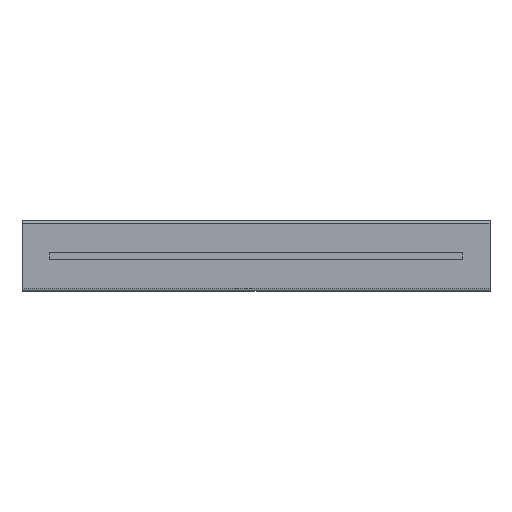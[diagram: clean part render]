
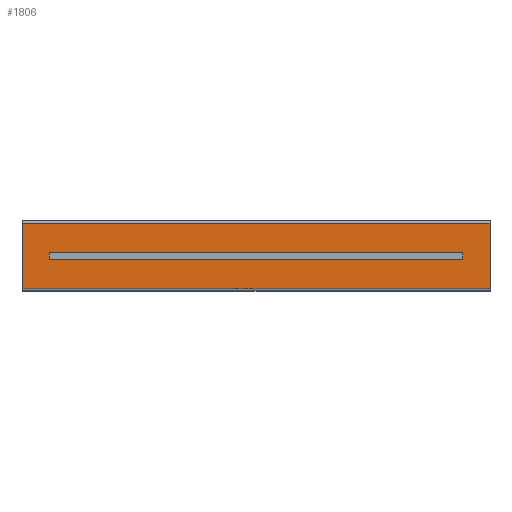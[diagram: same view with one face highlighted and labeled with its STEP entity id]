
A CAD part, front view. The second image highlights one B-rep face of the part: STEP entity #1806.
In plain terms, the highlighted planar face has unit normal (0, -1, 0).
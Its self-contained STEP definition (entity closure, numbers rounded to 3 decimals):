
#75 = LINE ( 'NONE', #2400, #3531 ) ;
#220 = VECTOR ( 'NONE', #2251, 1000. ) ;
#329 = ORIENTED_EDGE ( 'NONE', *, *, #2262, .T. ) ;
#380 = VERTEX_POINT ( 'NONE', #1458 ) ;
#432 = VERTEX_POINT ( 'NONE', #1235 ) ;
#438 = EDGE_CURVE ( 'NONE', #3086, #2868, #4921, .T. ) ;
#457 = DIRECTION ( 'NONE',  ( 0., 0., 1. ) ) ;
#550 = ORIENTED_EDGE ( 'NONE', *, *, #1664, .T. ) ;
#572 = EDGE_CURVE ( 'NONE', #432, #380, #1630, .T. ) ;
#577 = CARTESIAN_POINT ( 'NONE',  ( 260., -40., 43.5 ) ) ;
#664 = FACE_OUTER_BOUND ( 'NONE', #1494, .T. ) ;
#713 = VERTEX_POINT ( 'NONE', #3300 ) ;
#715 = CARTESIAN_POINT ( 'NONE',  ( -300., -40., 0. ) ) ;
#724 = DIRECTION ( 'NONE',  ( 0., 0., 1. ) ) ;
#748 = VERTEX_POINT ( 'NONE', #2994 ) ;
#1012 = CARTESIAN_POINT ( 'NONE',  ( -260., -40., 43.5 ) ) ;
#1055 = CARTESIAN_POINT ( 'NONE',  ( 260., -40., 43.5 ) ) ;
#1156 = ORIENTED_EDGE ( 'NONE', *, *, #1730, .T. ) ;
#1235 = CARTESIAN_POINT ( 'NONE',  ( 300., -40., 1.5 ) ) ;
#1298 = DIRECTION ( 'NONE',  ( 0., 1., 0. ) ) ;
#1404 = AXIS2_PLACEMENT_3D ( 'NONE', #1055, #4146, #3762 ) ;
#1458 = CARTESIAN_POINT ( 'NONE',  ( 300., -40., 85.5 ) ) ;
#1494 = EDGE_LOOP ( 'NONE', ( #2632, #550, #3840, #4574 ) ) ;
#1630 = LINE ( 'NONE', #3175, #4508 ) ;
#1639 = EDGE_CURVE ( 'NONE', #380, #3018, #4536, .T. ) ;
#1664 = EDGE_CURVE ( 'NONE', #3018, #3958, #2633, .T. ) ;
#1730 = EDGE_CURVE ( 'NONE', #748, #713, #2157, .T. ) ;
#1753 = AXIS2_PLACEMENT_3D ( 'NONE', #2365, #3892, #4686 ) ;
#1806 = ADVANCED_FACE ( 'NONE', ( #3071, #3347, #664 ), #5006, .F. ) ;
#1902 = AXIS2_PLACEMENT_3D ( 'NONE', #577, #2114, #457 ) ;
#2000 = VECTOR ( 'NONE', #4899, 1000. ) ;
#2114 = DIRECTION ( 'NONE',  ( 0., 1., 0. ) ) ;
#2144 = EDGE_LOOP ( 'NONE', ( #329, #3734 ) ) ;
#2157 = CIRCLE ( 'NONE', #1902, 4. ) ;
#2196 = CARTESIAN_POINT ( 'NONE',  ( -260., -40., 39.5 ) ) ;
#2251 = DIRECTION ( 'NONE',  ( 0., 0., -1. ) ) ;
#2262 = EDGE_CURVE ( 'NONE', #2868, #3086, #4265, .T. ) ;
#2365 = CARTESIAN_POINT ( 'NONE',  ( -260., -40., 43.5 ) ) ;
#2400 = CARTESIAN_POINT ( 'NONE',  ( -300., -40., 1.5 ) ) ;
#2629 = AXIS2_PLACEMENT_3D ( 'NONE', #1012, #1298, #3697 ) ;
#2632 = ORIENTED_EDGE ( 'NONE', *, *, #1639, .T. ) ;
#2633 = LINE ( 'NONE', #715, #220 ) ;
#2691 = DIRECTION ( 'NONE',  ( -1., 0., 0. ) ) ;
#2761 = EDGE_CURVE ( 'NONE', #432, #3958, #75, .T. ) ;
#2868 = VERTEX_POINT ( 'NONE', #3996 ) ;
#2927 = ORIENTED_EDGE ( 'NONE', *, *, #4157, .T. ) ;
#2994 = CARTESIAN_POINT ( 'NONE',  ( 260., -40., 47.5 ) ) ;
#3018 = VERTEX_POINT ( 'NONE', #3795 ) ;
#3071 = FACE_BOUND ( 'NONE', #2144, .T. ) ;
#3086 = VERTEX_POINT ( 'NONE', #2196 ) ;
#3175 = CARTESIAN_POINT ( 'NONE',  ( 300., -40., 0. ) ) ;
#3300 = CARTESIAN_POINT ( 'NONE',  ( 260., -40., 39.5 ) ) ;
#3347 = FACE_BOUND ( 'NONE', #3390, .T. ) ;
#3390 = EDGE_LOOP ( 'NONE', ( #1156, #2927 ) ) ;
#3531 = VECTOR ( 'NONE', #2691, 1000. ) ;
#3592 = CIRCLE ( 'NONE', #1404, 4. ) ;
#3697 = DIRECTION ( 'NONE',  ( 0., 0., 1. ) ) ;
#3734 = ORIENTED_EDGE ( 'NONE', *, *, #438, .T. ) ;
#3762 = DIRECTION ( 'NONE',  ( 0., 0., 1. ) ) ;
#3787 = CARTESIAN_POINT ( 'NONE',  ( 0., -40., 0. ) ) ;
#3795 = CARTESIAN_POINT ( 'NONE',  ( -300., -40., 85.5 ) ) ;
#3840 = ORIENTED_EDGE ( 'NONE', *, *, #2761, .F. ) ;
#3892 = DIRECTION ( 'NONE',  ( 0., 1., 0. ) ) ;
#3958 = VERTEX_POINT ( 'NONE', #4058 ) ;
#3996 = CARTESIAN_POINT ( 'NONE',  ( -260., -40., 47.5 ) ) ;
#4058 = CARTESIAN_POINT ( 'NONE',  ( -300., -40., 1.5 ) ) ;
#4146 = DIRECTION ( 'NONE',  ( 0., 1., 0. ) ) ;
#4157 = EDGE_CURVE ( 'NONE', #713, #748, #3592, .T. ) ;
#4259 = AXIS2_PLACEMENT_3D ( 'NONE', #3787, #4619, #724 ) ;
#4265 = CIRCLE ( 'NONE', #2629, 4. ) ;
#4508 = VECTOR ( 'NONE', #4652, 1000. ) ;
#4536 = LINE ( 'NONE', #4561, #2000 ) ;
#4561 = CARTESIAN_POINT ( 'NONE',  ( 300., -40., 85.5 ) ) ;
#4574 = ORIENTED_EDGE ( 'NONE', *, *, #572, .T. ) ;
#4619 = DIRECTION ( 'NONE',  ( 0., 1., 0. ) ) ;
#4652 = DIRECTION ( 'NONE',  ( 0., 0., 1. ) ) ;
#4686 = DIRECTION ( 'NONE',  ( 0., 0., 1. ) ) ;
#4899 = DIRECTION ( 'NONE',  ( -1., 0., 0. ) ) ;
#4921 = CIRCLE ( 'NONE', #1753, 4. ) ;
#5006 = PLANE ( 'NONE',  #4259 ) ;
